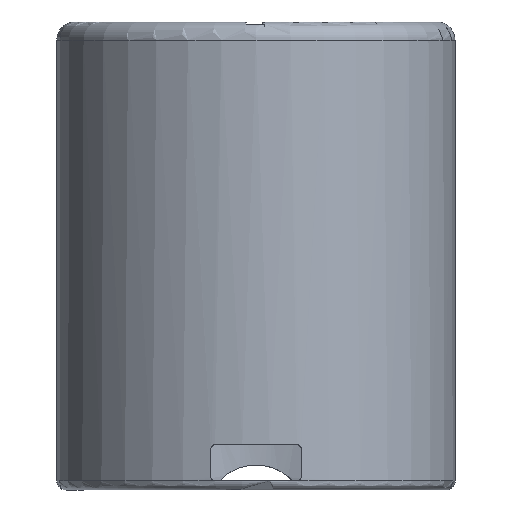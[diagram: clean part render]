
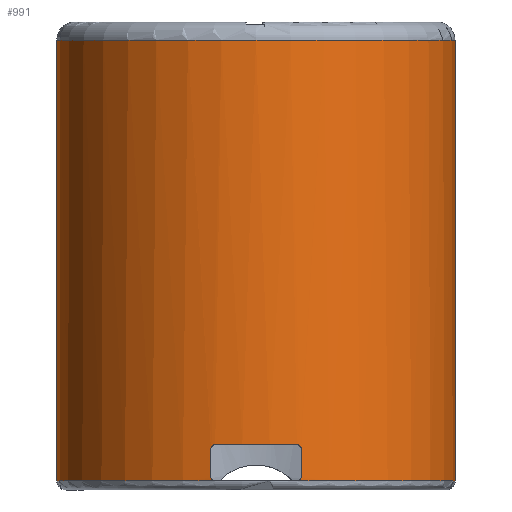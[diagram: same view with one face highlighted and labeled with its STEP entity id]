
A CAD part, front view. The second image highlights one B-rep face of the part: STEP entity #991.
In plain terms, the highlighted cylindrical face has radius 44 mm (diameter 88 mm), a full revolution.
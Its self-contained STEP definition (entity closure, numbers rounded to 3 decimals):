
#21=CYLINDRICAL_SURFACE('',#1071,44.);
#58=LINE('',#1634,#137);
#59=LINE('',#1649,#138);
#60=LINE('',#1675,#139);
#137=VECTOR('',#1213,44.);
#138=VECTOR('',#1216,10.);
#139=VECTOR('',#1219,10.);
#235=FACE_OUTER_BOUND('',#288,.T.);
#288=EDGE_LOOP('',(#726,#727,#728,#729,#730,#731,#732,#733,#734,#735,#736,
#737,#738,#739));
#335=CIRCLE('',#1054,44.);
#344=CIRCLE('',#1072,44.);
#345=CIRCLE('',#1073,44.);
#346=CIRCLE('',#1074,44.);
#347=CIRCLE('',#1075,44.);
#389=B_SPLINE_CURVE_WITH_KNOTS('',3,(#1638,#1639,#1640,#1641,#1642,#1643,
#1644,#1645,#1646,#1647),.UNSPECIFIED.,.F.,.F.,(4,2,2,2,4),(0.,0.038,
0.075,0.114,0.152),.UNSPECIFIED.);
#390=B_SPLINE_CURVE_WITH_KNOTS('',3,(#1651,#1652,#1653,#1654,#1655,#1656,
#1657,#1658,#1659,#1660),.UNSPECIFIED.,.F.,.F.,(4,2,2,2,4),(-0.152,
-0.114,-0.075,-0.038,0.),
 .UNSPECIFIED.);
#391=B_SPLINE_CURVE_WITH_KNOTS('',3,(#1664,#1665,#1666,#1667,#1668,#1669,
#1670,#1671,#1672,#1673),.UNSPECIFIED.,.F.,.F.,(4,2,2,2,4),(0.305,
0.342,0.38,0.419,0.457),
 .UNSPECIFIED.);
#392=B_SPLINE_CURVE_WITH_KNOTS('',3,(#1677,#1678,#1679,#1680,#1681,#1682,
#1683,#1684,#1685,#1686),.UNSPECIFIED.,.F.,.F.,(4,2,2,2,4),(-0.152,
-0.114,-0.075,-0.038,0.),
 .UNSPECIFIED.);
#393=B_SPLINE_CURVE_WITH_KNOTS('',3,(#1690,#1691,#1692,#1693,#1694,#1695,
#1696,#1697,#1698,#1699,#1700,#1701,#1702,#1703),.UNSPECIFIED.,.F.,.F.,
(4,2,2,2,2,2,4),(0.804,0.839,1.258,1.678,
2.097,2.517,2.552),.UNSPECIFIED.);
#414=VERTEX_POINT('',#1449);
#446=VERTEX_POINT('',#1633);
#447=VERTEX_POINT('',#1635);
#448=VERTEX_POINT('',#1637);
#449=VERTEX_POINT('',#1648);
#450=VERTEX_POINT('',#1650);
#451=VERTEX_POINT('',#1661);
#452=VERTEX_POINT('',#1663);
#453=VERTEX_POINT('',#1674);
#454=VERTEX_POINT('',#1676);
#455=VERTEX_POINT('',#1687);
#456=VERTEX_POINT('',#1689);
#515=EDGE_CURVE('',#414,#414,#335,.T.);
#556=EDGE_CURVE('',#414,#446,#58,.T.);
#557=EDGE_CURVE('',#447,#446,#344,.T.);
#558=EDGE_CURVE('',#448,#447,#389,.T.);
#559=EDGE_CURVE('',#448,#449,#59,.T.);
#560=EDGE_CURVE('',#450,#449,#390,.T.);
#561=EDGE_CURVE('',#450,#451,#345,.T.);
#562=EDGE_CURVE('',#452,#451,#391,.T.);
#563=EDGE_CURVE('',#452,#453,#60,.T.);
#564=EDGE_CURVE('',#454,#453,#392,.T.);
#565=EDGE_CURVE('',#455,#454,#346,.T.);
#566=EDGE_CURVE('',#455,#456,#393,.T.);
#567=EDGE_CURVE('',#446,#456,#347,.T.);
#726=ORIENTED_EDGE('',*,*,#515,.F.);
#727=ORIENTED_EDGE('',*,*,#556,.T.);
#728=ORIENTED_EDGE('',*,*,#557,.F.);
#729=ORIENTED_EDGE('',*,*,#558,.F.);
#730=ORIENTED_EDGE('',*,*,#559,.T.);
#731=ORIENTED_EDGE('',*,*,#560,.F.);
#732=ORIENTED_EDGE('',*,*,#561,.T.);
#733=ORIENTED_EDGE('',*,*,#562,.F.);
#734=ORIENTED_EDGE('',*,*,#563,.T.);
#735=ORIENTED_EDGE('',*,*,#564,.F.);
#736=ORIENTED_EDGE('',*,*,#565,.F.);
#737=ORIENTED_EDGE('',*,*,#566,.T.);
#738=ORIENTED_EDGE('',*,*,#567,.F.);
#739=ORIENTED_EDGE('',*,*,#556,.F.);
#991=ADVANCED_FACE('',(#235),#21,.T.);
#1054=AXIS2_PLACEMENT_3D('',#1451,#1158,#1159);
#1071=AXIS2_PLACEMENT_3D('',#1632,#1211,#1212);
#1072=AXIS2_PLACEMENT_3D('',#1636,#1214,#1215);
#1073=AXIS2_PLACEMENT_3D('',#1662,#1217,#1218);
#1074=AXIS2_PLACEMENT_3D('',#1688,#1220,#1221);
#1075=AXIS2_PLACEMENT_3D('',#1704,#1222,#1223);
#1158=DIRECTION('center_axis',(0.,0.,
1.));
#1159=DIRECTION('ref_axis',(1.,0.,0.));
#1211=DIRECTION('center_axis',(0.,0.,1.));
#1212=DIRECTION('ref_axis',(1.,0.,0.));
#1213=DIRECTION('',(0.,0.,-1.));
#1214=DIRECTION('center_axis',(0.,0.,-1.));
#1215=DIRECTION('ref_axis',(0.,-1.,0.));
#1216=DIRECTION('',(0.,0.,1.));
#1217=DIRECTION('center_axis',(0.,0.,1.));
#1218=DIRECTION('ref_axis',(1.,0.,0.));
#1219=DIRECTION('',(0.,0.,-1.));
#1220=DIRECTION('center_axis',(0.,0.,-1.));
#1221=DIRECTION('ref_axis',(0.,-1.,0.));
#1222=DIRECTION('center_axis',(0.,0.,-1.));
#1223=DIRECTION('ref_axis',(0.,-1.,0.));
#1449=CARTESIAN_POINT('',(-44.,0.,23.511));
#1451=CARTESIAN_POINT('Origin',(0.,0.,23.511));
#1632=CARTESIAN_POINT('Origin',(0.,0.,-51.878));
#1633=CARTESIAN_POINT('',(-44.,0.,-73.878));
#1634=CARTESIAN_POINT('',(-44.,0.,-51.878));
#1635=CARTESIAN_POINT('',(-9.,-43.07,-73.878));
#1636=CARTESIAN_POINT('Origin',(0.,0.,-73.878));
#1637=CARTESIAN_POINT('',(-10.,-42.849,-72.878));
#1638=CARTESIAN_POINT('Ctrl Pts',(-10.,-42.849,-72.878));
#1639=CARTESIAN_POINT('Ctrl Pts',(-10.,-42.849,-73.003));
#1640=CARTESIAN_POINT('Ctrl Pts',(-9.975,-42.854,-73.137));
#1641=CARTESIAN_POINT('Ctrl Pts',(-9.874,-42.878,-73.382));
#1642=CARTESIAN_POINT('Ctrl Pts',(-9.798,-42.895,-73.494));
#1643=CARTESIAN_POINT('Ctrl Pts',(-9.621,-42.935,-73.672));
#1644=CARTESIAN_POINT('Ctrl Pts',(-9.508,-42.961,-73.75));
#1645=CARTESIAN_POINT('Ctrl Pts',(-9.26,-43.015,-73.853));
#1646=CARTESIAN_POINT('Ctrl Pts',(-9.126,-43.043,-73.878));
#1647=CARTESIAN_POINT('Ctrl Pts',(-9.,-43.07,-73.878));
#1648=CARTESIAN_POINT('',(-10.,-42.849,-66.878));
#1649=CARTESIAN_POINT('',(-10.,-42.849,-59.878));
#1650=CARTESIAN_POINT('',(-9.,-43.07,-65.878));
#1651=CARTESIAN_POINT('Ctrl Pts',(-9.,-43.07,-65.878));
#1652=CARTESIAN_POINT('Ctrl Pts',(-9.126,-43.043,-65.878));
#1653=CARTESIAN_POINT('Ctrl Pts',(-9.26,-43.015,-65.903));
#1654=CARTESIAN_POINT('Ctrl Pts',(-9.508,-42.961,-66.006));
#1655=CARTESIAN_POINT('Ctrl Pts',(-9.621,-42.935,-66.084));
#1656=CARTESIAN_POINT('Ctrl Pts',(-9.798,-42.895,-66.262));
#1657=CARTESIAN_POINT('Ctrl Pts',(-9.874,-42.878,-66.374));
#1658=CARTESIAN_POINT('Ctrl Pts',(-9.975,-42.854,-66.619));
#1659=CARTESIAN_POINT('Ctrl Pts',(-10.,-42.849,-66.753));
#1660=CARTESIAN_POINT('Ctrl Pts',(-10.,-42.849,-66.878));
#1661=CARTESIAN_POINT('',(9.,-43.07,-65.878));
#1662=CARTESIAN_POINT('Origin',(0.,0.,-65.878));
#1663=CARTESIAN_POINT('',(10.,-42.849,-66.878));
#1664=CARTESIAN_POINT('Ctrl Pts',(10.,-42.849,-66.878));
#1665=CARTESIAN_POINT('Ctrl Pts',(10.,-42.849,-66.753));
#1666=CARTESIAN_POINT('Ctrl Pts',(9.975,-42.854,-66.619));
#1667=CARTESIAN_POINT('Ctrl Pts',(9.874,-42.878,-66.374));
#1668=CARTESIAN_POINT('Ctrl Pts',(9.798,-42.895,-66.262));
#1669=CARTESIAN_POINT('Ctrl Pts',(9.621,-42.935,-66.084));
#1670=CARTESIAN_POINT('Ctrl Pts',(9.508,-42.961,-66.006));
#1671=CARTESIAN_POINT('Ctrl Pts',(9.26,-43.015,-65.903));
#1672=CARTESIAN_POINT('Ctrl Pts',(9.126,-43.043,-65.878));
#1673=CARTESIAN_POINT('Ctrl Pts',(9.,-43.07,-65.878));
#1674=CARTESIAN_POINT('',(10.,-42.849,-72.878));
#1675=CARTESIAN_POINT('',(10.,-42.849,-59.878));
#1676=CARTESIAN_POINT('',(9.,-43.07,-73.878));
#1677=CARTESIAN_POINT('Ctrl Pts',(9.,-43.07,-73.878));
#1678=CARTESIAN_POINT('Ctrl Pts',(9.126,-43.043,-73.878));
#1679=CARTESIAN_POINT('Ctrl Pts',(9.26,-43.015,-73.853));
#1680=CARTESIAN_POINT('Ctrl Pts',(9.508,-42.961,-73.75));
#1681=CARTESIAN_POINT('Ctrl Pts',(9.621,-42.935,-73.672));
#1682=CARTESIAN_POINT('Ctrl Pts',(9.798,-42.895,-73.494));
#1683=CARTESIAN_POINT('Ctrl Pts',(9.874,-42.878,-73.382));
#1684=CARTESIAN_POINT('Ctrl Pts',(9.975,-42.854,-73.137));
#1685=CARTESIAN_POINT('Ctrl Pts',(10.,-42.849,-73.003));
#1686=CARTESIAN_POINT('Ctrl Pts',(10.,-42.849,-72.878));
#1687=CARTESIAN_POINT('',(8.083,43.251,-73.878));
#1688=CARTESIAN_POINT('Origin',(0.,0.,-73.878));
#1689=CARTESIAN_POINT('',(-8.083,43.251,-73.878));
#1690=CARTESIAN_POINT('Ctrl Pts',(8.083,43.251,-73.878));
#1691=CARTESIAN_POINT('Ctrl Pts',(8.002,43.266,-73.792));
#1692=CARTESIAN_POINT('Ctrl Pts',(7.92,43.281,-73.707));
#1693=CARTESIAN_POINT('Ctrl Pts',(6.857,43.474,-72.644));
#1694=CARTESIAN_POINT('Ctrl Pts',(5.614,43.662,-71.792));
#1695=CARTESIAN_POINT('Ctrl Pts',(2.885,43.927,-70.659));
#1696=CARTESIAN_POINT('Ctrl Pts',(1.398,44.,-70.378));
#1697=CARTESIAN_POINT('Ctrl Pts',(-1.398,44.,-70.378));
#1698=CARTESIAN_POINT('Ctrl Pts',(-2.885,43.927,-70.659));
#1699=CARTESIAN_POINT('Ctrl Pts',(-5.614,43.662,-71.792));
#1700=CARTESIAN_POINT('Ctrl Pts',(-6.857,43.474,-72.644));
#1701=CARTESIAN_POINT('Ctrl Pts',(-7.92,43.281,-73.707));
#1702=CARTESIAN_POINT('Ctrl Pts',(-8.002,43.266,-73.792));
#1703=CARTESIAN_POINT('Ctrl Pts',(-8.083,43.251,-73.878));
#1704=CARTESIAN_POINT('Origin',(0.,0.,-73.878));
